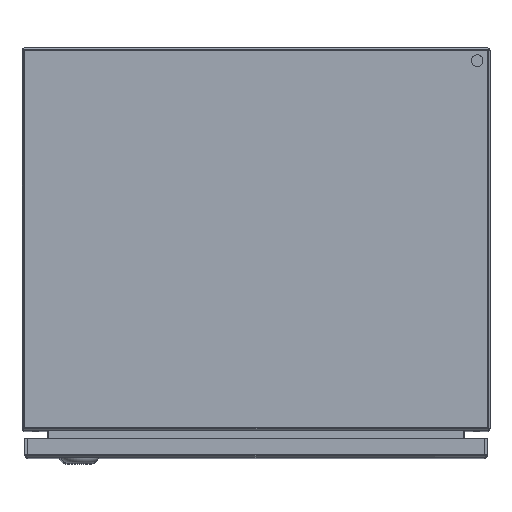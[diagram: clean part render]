
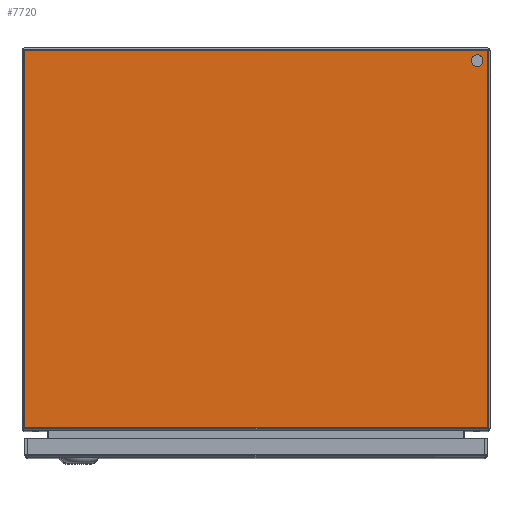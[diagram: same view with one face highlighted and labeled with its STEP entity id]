
A CAD part, top view. The second image highlights one B-rep face of the part: STEP entity #7720.
In plain terms, the highlighted planar face has unit normal (0, 0, 1).
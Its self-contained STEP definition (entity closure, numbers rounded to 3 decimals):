
#461=LINE('',#12235,#905);
#462=LINE('',#12238,#906);
#463=LINE('',#12240,#907);
#464=LINE('',#12242,#908);
#905=VECTOR('',#9567,1000.);
#906=VECTOR('',#9568,1000.);
#907=VECTOR('',#9569,1000.);
#908=VECTOR('',#9570,1000.);
#1410=ORIENTED_EDGE('',*,*,#3423,.F.);
#1411=ORIENTED_EDGE('',*,*,#3424,.T.);
#1412=ORIENTED_EDGE('',*,*,#3425,.F.);
#1413=ORIENTED_EDGE('',*,*,#3426,.F.);
#1414=ORIENTED_EDGE('',*,*,#3427,.T.);
#3423=EDGE_CURVE('',#4422,#4422,#5122,.T.);
#3424=EDGE_CURVE('',#4423,#4424,#461,.T.);
#3425=EDGE_CURVE('',#4425,#4424,#462,.T.);
#3426=EDGE_CURVE('',#4426,#4425,#463,.T.);
#3427=EDGE_CURVE('',#4426,#4423,#464,.T.);
#4422=VERTEX_POINT('',#12234);
#4423=VERTEX_POINT('',#12236);
#4424=VERTEX_POINT('',#12237);
#4425=VERTEX_POINT('',#12239);
#4426=VERTEX_POINT('',#12241);
#5122=CIRCLE('',#8337,5.);
#5665=EDGE_LOOP('',(#1410));
#5666=EDGE_LOOP('',(#1411,#1412,#1413,#1414));
#6603=FACE_BOUND('',#5665,.T.);
#6604=FACE_BOUND('',#5666,.T.);
#7510=PLANE('',#8336);
#7720=ADVANCED_FACE('',(#6603,#6604),#7510,.T.);
#8336=AXIS2_PLACEMENT_3D('',#12232,#9563,#9564);
#8337=AXIS2_PLACEMENT_3D('',#12233,#9565,#9566);
#9563=DIRECTION('',(0.,0.,1.));
#9564=DIRECTION('',(1.,0.,0.));
#9565=DIRECTION('',(0.,0.,1.));
#9566=DIRECTION('',(1.,0.,0.));
#9567=DIRECTION('',(-1.,0.,0.));
#9568=DIRECTION('',(0.,1.,0.));
#9569=DIRECTION('',(-1.,0.,0.));
#9570=DIRECTION('',(0.,1.,0.));
#12232=CARTESIAN_POINT('',(-197.5,-327.,600.));
#12233=CARTESIAN_POINT('',(189.,-11.,600.));
#12234=CARTESIAN_POINT('',(194.,-11.,600.));
#12235=CARTESIAN_POINT('',(400.,-2.5,600.));
#12236=CARTESIAN_POINT('',(197.5,-2.5,600.));
#12237=CARTESIAN_POINT('',(-197.5,-2.5,600.));
#12238=CARTESIAN_POINT('',(-197.5,-327.,600.));
#12239=CARTESIAN_POINT('',(-197.5,-324.5,600.));
#12240=CARTESIAN_POINT('',(400.,-324.5,600.));
#12241=CARTESIAN_POINT('',(197.5,-324.5,600.));
#12242=CARTESIAN_POINT('',(197.5,-327.,600.));
